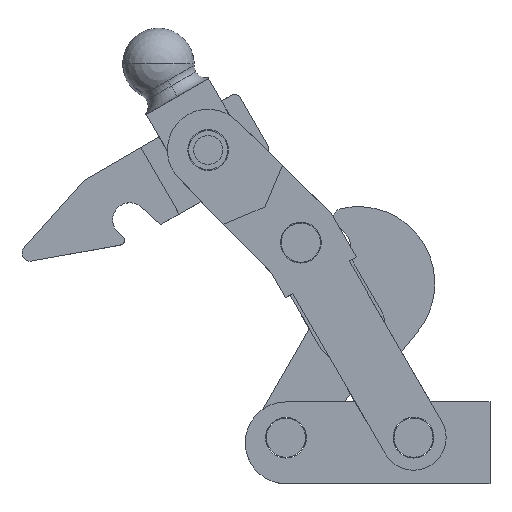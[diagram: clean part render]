
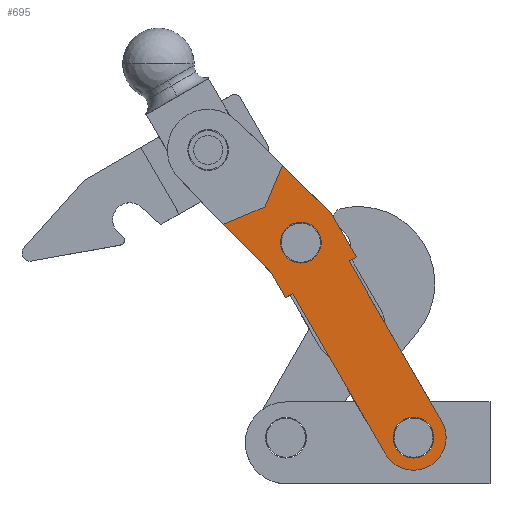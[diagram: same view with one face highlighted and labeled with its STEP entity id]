
A CAD part, top view. The second image highlights one B-rep face of the part: STEP entity #695.
In plain terms, the highlighted planar face has unit normal (0, 0, 1).
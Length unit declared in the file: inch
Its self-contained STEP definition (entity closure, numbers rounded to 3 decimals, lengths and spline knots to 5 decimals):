
#695 = ADVANCED_FACE( '', ( #971, #972, #973 ), #974, .F. );
#971 = FACE_OUTER_BOUND( '', #1464, .T. );
#972 = FACE_BOUND( '', #1465, .T. );
#973 = FACE_BOUND( '', #1466, .T. );
#974 = PLANE( '', #1467 );
#1464 = EDGE_LOOP( '', ( #2234, #2235, #2236, #2237, #2238, #2239, #2240, #2241, #2242, #2243, #2244, #2245 ) );
#1465 = EDGE_LOOP( '', ( #2246, #2247, #2248 ) );
#1466 = EDGE_LOOP( '', ( #2249, #2250, #2251 ) );
#1467 = AXIS2_PLACEMENT_3D( '', #2252, #2253, #2254 );
#2234 = ORIENTED_EDGE( '', *, *, #3925, .F. );
#2235 = ORIENTED_EDGE( '', *, *, #3932, .F. );
#2236 = ORIENTED_EDGE( '', *, *, #3933, .F. );
#2237 = ORIENTED_EDGE( '', *, *, #3934, .F. );
#2238 = ORIENTED_EDGE( '', *, *, #3935, .F. );
#2239 = ORIENTED_EDGE( '', *, *, #3936, .F. );
#2240 = ORIENTED_EDGE( '', *, *, #3937, .F. );
#2241 = ORIENTED_EDGE( '', *, *, #3890, .F. );
#2242 = ORIENTED_EDGE( '', *, *, #3938, .F. );
#2243 = ORIENTED_EDGE( '', *, *, #3939, .F. );
#2244 = ORIENTED_EDGE( '', *, *, #3940, .F. );
#2245 = ORIENTED_EDGE( '', *, *, #3915, .F. );
#2246 = ORIENTED_EDGE( '', *, *, #3941, .T. );
#2247 = ORIENTED_EDGE( '', *, *, #3882, .T. );
#2248 = ORIENTED_EDGE( '', *, *, #3942, .T. );
#2249 = ORIENTED_EDGE( '', *, *, #3943, .T. );
#2250 = ORIENTED_EDGE( '', *, *, #3874, .T. );
#2251 = ORIENTED_EDGE( '', *, *, #3944, .T. );
#2252 = CARTESIAN_POINT( '', ( -0.9375, 0.5625, 0.66 ) );
#2253 = DIRECTION( '', ( 0., 0., -1. ) );
#2254 = DIRECTION( '', ( 0., -1., 0. ) );
#3874 = EDGE_CURVE( '', #4562, #4566, #4568, .T. );
#3882 = EDGE_CURVE( '', #4578, #4582, #4584, .T. );
#3890 = EDGE_CURVE( '', #4598, #4594, #4600, .T. );
#3915 = EDGE_CURVE( '', #4640, #4642, #4643, .T. );
#3925 = EDGE_CURVE( '', #4660, #4640, #4662, .T. );
#3932 = EDGE_CURVE( '', #4670, #4660, #4672, .T. );
#3933 = EDGE_CURVE( '', #4673, #4670, #4674, .T. );
#3934 = EDGE_CURVE( '', #4675, #4673, #4676, .T. );
#3935 = EDGE_CURVE( '', #4677, #4675, #4678, .T. );
#3936 = EDGE_CURVE( '', #4679, #4677, #4680, .T. );
#3937 = EDGE_CURVE( '', #4594, #4679, #4681, .T. );
#3938 = EDGE_CURVE( '', #4682, #4598, #4683, .T. );
#3939 = EDGE_CURVE( '', #4684, #4682, #4685, .T. );
#3940 = EDGE_CURVE( '', #4642, #4684, #4686, .T. );
#3941 = EDGE_CURVE( '', #4687, #4578, #4688, .T. );
#3942 = EDGE_CURVE( '', #4582, #4687, #4689, .T. );
#3943 = EDGE_CURVE( '', #4690, #4562, #4691, .T. );
#3944 = EDGE_CURVE( '', #4566, #4690, #4692, .T. );
#4562 = VERTEX_POINT( '', #5693 );
#4566 = VERTEX_POINT( '', #5698 );
#4568 = CIRCLE( '', #5701, 0.25 );
#4578 = VERTEX_POINT( '', #5713 );
#4582 = VERTEX_POINT( '', #5718 );
#4584 = CIRCLE( '', #5721, 0.25 );
#4594 = VERTEX_POINT( '', #5733 );
#4598 = VERTEX_POINT( '', #5738 );
#4600 = CIRCLE( '', #5741, 0.4 );
#4640 = VERTEX_POINT( '', #5795 );
#4642 = VERTEX_POINT( '', #5798 );
#4643 = LINE( '', #5799, #5800 );
#4660 = VERTEX_POINT( '', #5825 );
#4662 = LINE( '', #5828, #5829 );
#4670 = VERTEX_POINT( '', #5840 );
#4672 = LINE( '', #5843, #5844 );
#4673 = VERTEX_POINT( '', #5845 );
#4674 = LINE( '', #5846, #5847 );
#4675 = VERTEX_POINT( '', #5848 );
#4676 = LINE( '', #5849, #5850 );
#4677 = VERTEX_POINT( '', #5851 );
#4678 = LINE( '', #5852, #5853 );
#4679 = VERTEX_POINT( '', #5854 );
#4680 = LINE( '', #5855, #5856 );
#4681 = CIRCLE( '', #5857, 0.4 );
#4682 = VERTEX_POINT( '', #5858 );
#4683 = LINE( '', #5859, #5860 );
#4684 = VERTEX_POINT( '', #5861 );
#4685 = LINE( '', #5862, #5863 );
#4686 = LINE( '', #5864, #5865 );
#4687 = VERTEX_POINT( '', #5866 );
#4688 = CIRCLE( '', #5867, 0.25 );
#4689 = CIRCLE( '', #5868, 0.25 );
#4690 = VERTEX_POINT( '', #5869 );
#4691 = CIRCLE( '', #5870, 0.25 );
#4692 = CIRCLE( '', #5871, 0.25 );
#5693 = CARTESIAN_POINT( '', ( -2.44322, 3.16882, 0.66 ) );
#5698 = CARTESIAN_POINT( '', ( -2.1931, 2.73588, 0.66 ) );
#5701 = AXIS2_PLACEMENT_3D( '', #7054, #7055, #7056 );
#5713 = CARTESIAN_POINT( '', ( -1.06256, 0.77897, 0.66 ) );
#5718 = CARTESIAN_POINT( '', ( -0.81244, 0.34603, 0.66 ) );
#5721 = AXIS2_PLACEMENT_3D( '', #7070, #7071, #7072 );
#5733 = CARTESIAN_POINT( '', ( -0.7374, 0.21615, 0.66 ) );
#5738 = CARTESIAN_POINT( '', ( -0.59115, 0.7626, 0.66 ) );
#5741 = AXIS2_PLACEMENT_3D( '', #7086, #7087, #7088 );
#5795 = CARTESIAN_POINT( '', ( -2.54251, 3.89561, 0.66 ) );
#5798 = CARTESIAN_POINT( '', ( -1.95224, 3.31847, 0.66 ) );
#5799 = CARTESIAN_POINT( '', ( -2.54251, 3.89561, 0.66 ) );
#5800 = VECTOR( '', #7131, 1. );
#5825 = CARTESIAN_POINT( '', ( -2.75669, 3.39063, 0.66 ) );
#5828 = CARTESIAN_POINT( '', ( -2.75669, 3.39063, 0.66 ) );
#5829 = VECTOR( '', #7141, 1. );
#5840 = CARTESIAN_POINT( '', ( -3.26155, 3.17617, 0.66 ) );
#5843 = CARTESIAN_POINT( '', ( -3.26155, 3.17617, 0.66 ) );
#5844 = VECTOR( '', #7152, 1. );
#5845 = CARTESIAN_POINT( '', ( -2.68409, 2.58622, 0.66 ) );
#5846 = CARTESIAN_POINT( '', ( -2.68409, 2.58622, 0.66 ) );
#5847 = VECTOR( '', #7153, 1. );
#5848 = CARTESIAN_POINT( '', ( -2.50599, 2.27794, 0.66 ) );
#5849 = CARTESIAN_POINT( '', ( -2.50599, 2.27794, 0.66 ) );
#5850 = VECTOR( '', #7154, 1. );
#5851 = CARTESIAN_POINT( '', ( -2.4194, 2.32797, 0.66 ) );
#5852 = CARTESIAN_POINT( '', ( -2.4194, 2.32797, 0.66 ) );
#5853 = VECTOR( '', #7155, 1. );
#5854 = CARTESIAN_POINT( '', ( -1.28385, 0.3624, 0.66 ) );
#5855 = CARTESIAN_POINT( '', ( -1.28385, 0.3624, 0.66 ) );
#5856 = VECTOR( '', #7156, 1. );
#5857 = AXIS2_PLACEMENT_3D( '', #7157, #7158, #7159 );
#5858 = CARTESIAN_POINT( '', ( -1.72669, 2.72816, 0.66 ) );
#5859 = CARTESIAN_POINT( '', ( -1.72669, 2.72816, 0.66 ) );
#5860 = VECTOR( '', #7160, 1. );
#5861 = CARTESIAN_POINT( '', ( -1.6401, 2.77818, 0.66 ) );
#5862 = CARTESIAN_POINT( '', ( -1.6401, 2.77818, 0.66 ) );
#5863 = VECTOR( '', #7161, 1. );
#5864 = CARTESIAN_POINT( '', ( -1.95224, 3.31847, 0.66 ) );
#5865 = VECTOR( '', #7162, 1. );
#5866 = CARTESIAN_POINT( '', ( -1.15397, 0.43744, 0.66 ) );
#5867 = AXIS2_PLACEMENT_3D( '', #7163, #7164, #7165 );
#5868 = AXIS2_PLACEMENT_3D( '', #7166, #7167, #7168 );
#5869 = CARTESIAN_POINT( '', ( -2.53463, 2.82729, 0.66 ) );
#5870 = AXIS2_PLACEMENT_3D( '', #7169, #7170, #7171 );
#5871 = AXIS2_PLACEMENT_3D( '', #7172, #7173, #7174 );
#7054 = CARTESIAN_POINT( '', ( -2.31816, 2.95235, 0.66 ) );
#7055 = DIRECTION( '', ( 0., 0., -1. ) );
#7056 = DIRECTION( '', ( -0.866, -0.5, 0. ) );
#7070 = CARTESIAN_POINT( '', ( -0.9375, 0.5625, 0.66 ) );
#7071 = DIRECTION( '', ( 0., 0., -1. ) );
#7072 = DIRECTION( '', ( -0.866, -0.5, 0. ) );
#7086 = CARTESIAN_POINT( '', ( -0.9375, 0.5625, 0.66 ) );
#7087 = DIRECTION( '', ( 0., 0., -1. ) );
#7088 = DIRECTION( '', ( 0.866, 0.5, 0. ) );
#7131 = DIRECTION( '', ( 0.715, -0.699, 0. ) );
#7141 = DIRECTION( '', ( 0.39, 0.921, 0. ) );
#7152 = DIRECTION( '', ( 0.92, 0.391, 0. ) );
#7153 = DIRECTION( '', ( -0.7, 0.715, 0. ) );
#7154 = DIRECTION( '', ( -0.5, 0.866, 0. ) );
#7155 = DIRECTION( '', ( -0.866, -0.5, 0. ) );
#7156 = DIRECTION( '', ( -0.5, 0.866, 0. ) );
#7157 = CARTESIAN_POINT( '', ( -0.9375, 0.5625, 0.66 ) );
#7158 = DIRECTION( '', ( 0., 0., -1. ) );
#7159 = DIRECTION( '', ( 0.866, 0.5, 0. ) );
#7160 = DIRECTION( '', ( 0.5, -0.866, 0. ) );
#7161 = DIRECTION( '', ( -0.866, -0.5, 0. ) );
#7162 = DIRECTION( '', ( 0.5, -0.866, 0. ) );
#7163 = CARTESIAN_POINT( '', ( -0.9375, 0.5625, 0.66 ) );
#7164 = DIRECTION( '', ( 0., 0., -1. ) );
#7165 = DIRECTION( '', ( -0.866, -0.5, 0. ) );
#7166 = CARTESIAN_POINT( '', ( -0.9375, 0.5625, 0.66 ) );
#7167 = DIRECTION( '', ( 0., 0., -1. ) );
#7168 = DIRECTION( '', ( -0.866, -0.5, 0. ) );
#7169 = CARTESIAN_POINT( '', ( -2.31816, 2.95235, 0.66 ) );
#7170 = DIRECTION( '', ( 0., 0., -1. ) );
#7171 = DIRECTION( '', ( -0.866, -0.5, 0. ) );
#7172 = CARTESIAN_POINT( '', ( -2.31816, 2.95235, 0.66 ) );
#7173 = DIRECTION( '', ( 0., 0., -1. ) );
#7174 = DIRECTION( '', ( -0.866, -0.5, 0. ) );
